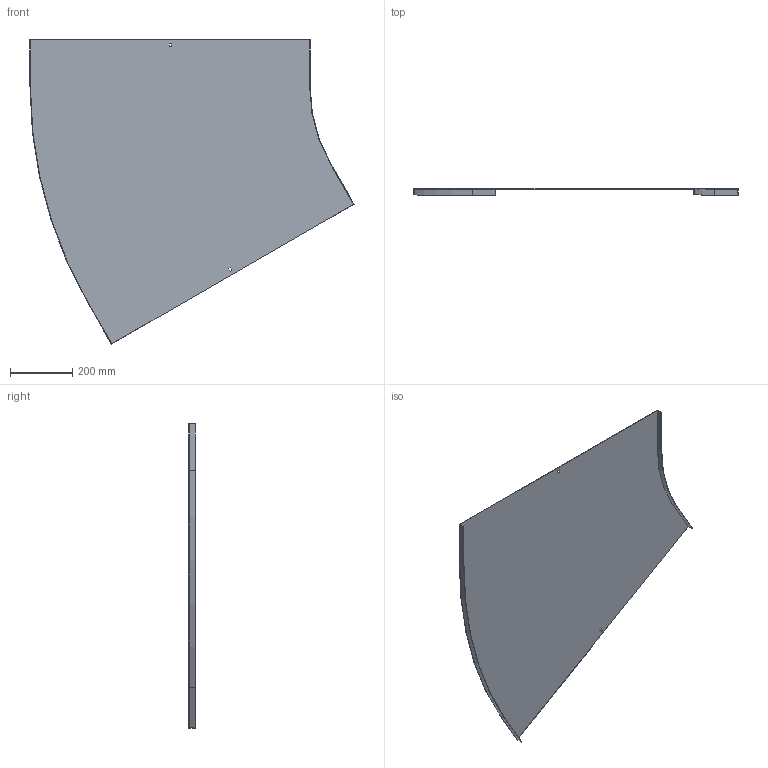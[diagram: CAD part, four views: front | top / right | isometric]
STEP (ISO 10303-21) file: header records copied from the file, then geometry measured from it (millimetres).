
FILE_DESCRIPTION (( 'STEP AP214' ), '1' );
FILE_NAME ('12N5R900.step', '2025-02-21T14:26:30', ( '' ), ( '' ), 'SwSTEP 2.0', 'SolidWorks 2023', '' );
FILE_SCHEMA (( 'AUTOMOTIVE_DESIGN' ));
Length unit declared in the file: millimetre
Products named in the file (1): 12N5R900
Bounding box: 1044.79 x 20 x 980.65 mm (x, y, z)
Volume: 1124185.1 mm3; surface area: 1504218.7 mm2
Topology: 1 solids, 1 shells, 26 faces, 72 edges, 48 vertices
Faces by surface type: plane 22, cylinder 4
Entity records: 855 total; most frequent: CARTESIAN_POINT 147, ORIENTED_EDGE 144, DIRECTION 134, EDGE_CURVE 72, VECTOR 64, LINE 64, VERTEX_POINT 48, AXIS2_PLACEMENT_3D 35
